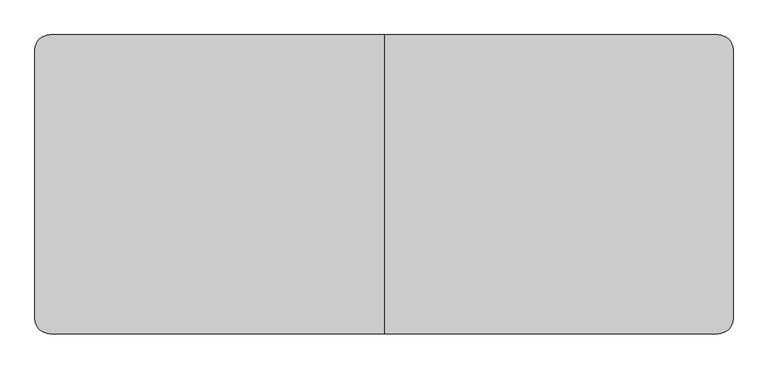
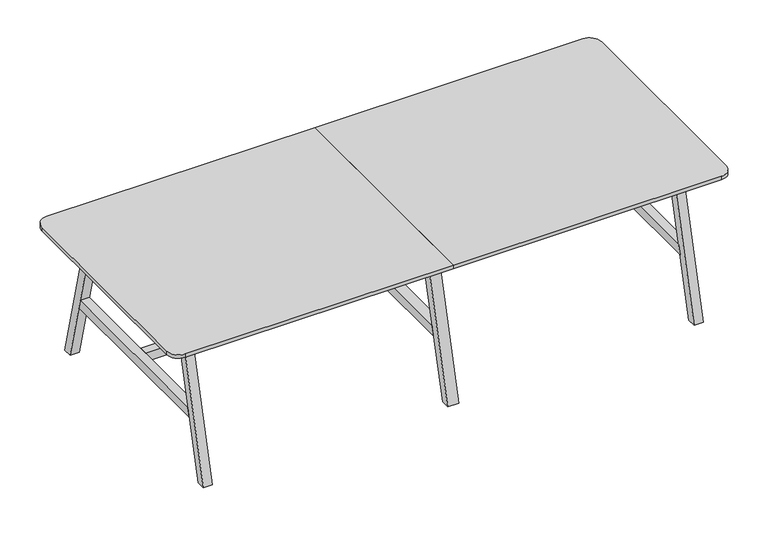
"""IFC4 building model written with IfcOpenShell, lengths in millimetres: furniture geometry, BDG_BossDesign_Tbls_AgentTables6Legs : AGE-DT-6L-2800-1200-3D."""

import ifcopenshell
import ifcopenshell.guid

model = None  # the IFC model being written
_history = None  # IfcOwnerHistory: only IFC2X3 demands one
_inside = {}  # id of a spatial element -> (the spatial element, [elements in it])
_under = {}  # id of a project, library or spatial element -> (it, [spatial elements below it])
_declared = {}  # id of a project -> (the project, [libraries it declares])
_typed = {}  # id of a type object -> (the type object, [elements of that type])
_made_of = {}  # id of a material, layer set ... -> (it, [elements and type objects made of it])


def new_model(schema):
    """Start an empty IFC model of exactly this schema.

    Asked for "IFC4X3", IfcOpenShell would pick the latest addendum, in which some entities
    have other attributes; the version numbers below select the first issue.
    IFC2X3 requires an IfcOwnerHistory on every rooted entity: one is made here for all.
    """
    global model, _history
    if schema == "IFC4X3":
        model = ifcopenshell.file(schema_version=(4, 3, 0, 0))
    else:
        model = ifcopenshell.file(schema=schema)
    _inside.clear()
    _under.clear()
    _declared.clear()
    _typed.clear()
    _made_of.clear()
    _history = None
    if model.schema == "IFC2X3":
        org = make("IfcOrganization", Name="unknown")
        user = make(
            "IfcPersonAndOrganization",
            ThePerson=make("IfcPerson", FamilyName="unknown"),
            TheOrganization=org,
        )
        app = make(
            "IfcApplication",
            ApplicationDeveloper=org,
            Version="unknown",
            ApplicationFullName="unknown",
            ApplicationIdentifier="unknown",
        )
        _history = make(
            "IfcOwnerHistory",
            OwningUser=user,
            OwningApplication=app,
            ChangeAction="ADDED",
            CreationDate=0,
        )
    return model


def make(cls, **values):
    """One entity of the class cls with the attributes given. An attribute that is None is left unset."""
    return model.create_entity(
        cls, **{name: value for name, value in values.items() if value is not None}
    )


def rooted(cls, **values):
    """An entity with a GlobalId (a new one), such as an element, a storey or a relation."""
    return make(cls, GlobalId=ifcopenshell.guid.new(), OwnerHistory=_history, **values)


def si_unit(unit_type, name, prefix=None):
    """IfcSIUnit, for example si_unit("LENGTHUNIT", "METRE", prefix="MILLI")."""
    return make("IfcSIUnit", UnitType=unit_type, Prefix=prefix, Name=name)


def assignment(units):
    """IfcUnitAssignment: the units of a project."""
    return None if units is None else make("IfcUnitAssignment", Units=units)


def point(xyz):
    """IfcCartesianPoint."""
    return None if xyz is None else make("IfcCartesianPoint", Coordinates=xyz)


def direction(xyz):
    """IfcDirection."""
    return None if xyz is None else make("IfcDirection", DirectionRatios=xyz)


def frame(location, z_axis=None, x_axis=None):
    """IfcAxis2Placement3D, a coordinate frame: its origin and axes. An axis left out is left unset."""
    return make(
        "IfcAxis2Placement3D",
        Location=point(location),
        Axis=direction(z_axis),
        RefDirection=direction(x_axis),
    )


def frame_2d(location, x_axis=None):
    """IfcAxis2Placement2D, a coordinate frame in the plane: its origin and x axis."""
    return make(
        "IfcAxis2Placement2D", Location=point(location), RefDirection=direction(x_axis)
    )


def origin():
    """The frame at (0, 0, 0) with its axes left unset."""
    return frame((0.0, 0.0, 0.0))


def place(relative_to, where):
    """IfcLocalPlacement: puts the frame where relative to a parent placement (None: the world)."""
    return make(
        "IfcLocalPlacement", PlacementRelTo=relative_to, RelativePlacement=where
    )


def context(
    kind, dimensions, precision=None, world=None, true_north=None, identifier=None
):
    """IfcGeometricRepresentationContext, for example the 3D "Model" context."""
    return make(
        "IfcGeometricRepresentationContext",
        ContextIdentifier=identifier,
        ContextType=kind,
        CoordinateSpaceDimension=dimensions,
        Precision=precision,
        WorldCoordinateSystem=world,
        TrueNorth=true_north,
    )


def project(units=None, contexts=None):
    """IfcProject with its units and contexts."""
    return rooted(
        "IfcProject",
        Name="project",
        RepresentationContexts=contexts,
        UnitsInContext=assignment(units),
    )


def spatial(cls, under=None, at=None, **own):
    """A site, building, storey or space (cls), placed at a placement, below another one or the project."""
    s = rooted(cls, ObjectPlacement=at, **own)
    if under is not None:
        _under.setdefault(under.id(), (under, []))[1].append(s)
    return s


def polyline(points):
    """IfcPolyline through the points."""
    return make("IfcPolyline", Points=[point(p) for p in points])


def circle_curve(where, radius):
    """IfcCircle in the frame where."""
    return make("IfcCircle", Position=where, Radius=radius)


def trimmed(basis, trim1, trim2, sense, master):
    """IfcTrimmedCurve: the piece of a basis curve between two trims."""
    return make(
        "IfcTrimmedCurve",
        BasisCurve=basis,
        Trim1=trim1,
        Trim2=trim2,
        SenseAgreement=sense,
        MasterRepresentation=master,
    )


def segment(curve, same_sense, transition):
    """IfcCompositeCurveSegment."""
    return make(
        "IfcCompositeCurveSegment",
        Transition=transition,
        SameSense=same_sense,
        ParentCurve=curve,
    )


def composite_curve(segments, self_intersect=None):
    """IfcCompositeCurve: segments joined end to end."""
    return make("IfcCompositeCurve", Segments=segments, SelfIntersect=self_intersect)


def outline(outer, holes=None, kind="AREA"):
    """IfcArbitraryClosedProfileDef: a profile drawn as a closed curve; with holes, ...WithVoids."""
    if holes is None:
        return make("IfcArbitraryClosedProfileDef", ProfileType=kind, OuterCurve=outer)
    return make(
        "IfcArbitraryProfileDefWithVoids",
        ProfileType=kind,
        OuterCurve=outer,
        InnerCurves=holes,
    )


def extrude(swept, where, along, depth):
    """IfcExtrudedAreaSolid: the profile swept, set in the frame where, extruded along a direction by depth."""
    return make(
        "IfcExtrudedAreaSolid",
        SweptArea=swept,
        Position=where,
        ExtrudedDirection=direction(along),
        Depth=depth,
    )


def shape(context_of_items, identifier, shape_type, items):
    """IfcShapeRepresentation: the items that make up one representation, for example the "Body"."""
    return make(
        "IfcShapeRepresentation",
        ContextOfItems=context_of_items,
        RepresentationIdentifier=identifier,
        RepresentationType=shape_type,
        Items=items,
    )


def source(mapping_origin, context_of_items, identifier, shape_type, items):
    """IfcRepresentationMap: a shape defined once, which mapped items show again and again."""
    return make(
        "IfcRepresentationMap",
        MappingOrigin=mapping_origin,
        MappedRepresentation=shape(context_of_items, identifier, shape_type, items),
    )


def transform(
    local_origin,
    x_axis=None,
    y_axis=None,
    z_axis=None,
    scale=None,
    scale2=None,
    scale3=None,
    uniform=True,
):
    """IfcCartesianTransformationOperator3D, or its non-uniform kind. x_axis, y_axis, z_axis: its Axis1, 2, 3."""
    if uniform:
        return make(
            "IfcCartesianTransformationOperator3D",
            Axis1=direction(x_axis),
            Axis2=direction(y_axis),
            LocalOrigin=point(local_origin),
            Scale=scale,
            Axis3=direction(z_axis),
        )
    return make(
        "IfcCartesianTransformationOperator3DnonUniform",
        Axis1=direction(x_axis),
        Axis2=direction(y_axis),
        LocalOrigin=point(local_origin),
        Scale=scale,
        Axis3=direction(z_axis),
        Scale2=scale2,
        Scale3=scale3,
    )


def mapped(mapping_source, mapping_target):
    """IfcMappedItem: shows the shape of a source again, moved by a transform."""
    return make(
        "IfcMappedItem", MappingSource=mapping_source, MappingTarget=mapping_target
    )


def made_of(thing, what):
    """Note that an element or type object is made of a material, layer set ...; save() writes the relation."""
    if what is not None:
        _made_of.setdefault(what.id(), (what, []))[1].append(thing)
    return thing


def element(
    cls,
    number,
    at=None,
    inside=None,
    cuts=None,
    type_object=None,
    material=None,
    context=None,
    identifier="Body",
    shape_type=None,
    held_by="IfcProductDefinitionShape",
    body=None,
    shapes=None,
    **own,
):
    """One element of the class cls, such as IfcWall. Its Tag is "e" and its number.

    at: its placement. inside: the storey or other place that contains it. cuts: it is an
    opening in that element (IfcRelVoidsElement). A single representation is given by context,
    identifier, shape_type and body (its items); several are given by shapes. held_by: the class
    of the entity that holds the representations. save() writes the other relations.
    """
    e = rooted(cls, Tag="e%d" % number, ObjectPlacement=at, **own)
    if body is not None:
        shapes = [shape(context, identifier, shape_type, body)]
    if shapes is not None:
        e.Representation = make(held_by, Representations=shapes)
    if inside is not None:
        _inside.setdefault(inside.id(), (inside, []))[1].append(e)
    if cuts is not None:
        rooted(
            "IfcRelVoidsElement", RelatingBuildingElement=cuts, RelatedOpeningElement=e
        )
    if type_object is not None:
        _typed.setdefault(type_object.id(), (type_object, []))[1].append(e)
    return made_of(e, material)


def aggregate(whole, parts):
    """IfcRelAggregates: a whole, such as a stair, and the parts it consists of."""
    return rooted("IfcRelAggregates", RelatingObject=whole, RelatedObjects=parts)


def save(model, path):
    """Write the relations noted so far, then the file.

    IfcRelAggregates (storeys below a building ...), IfcRelContainedInSpatialStructure (elements
    in a storey), IfcRelDefinesByType, IfcRelAssociatesMaterial and IfcRelDeclares: one each for
    every whole, place, type object, material and project.
    """
    for whole, parts in _under.values():
        aggregate(whole, parts)
    for where, things in _inside.values():
        rooted(
            "IfcRelContainedInSpatialStructure",
            RelatedElements=things,
            RelatingStructure=where,
        )
    for kind, things in _typed.values():
        rooted("IfcRelDefinesByType", RelatedObjects=things, RelatingType=kind)
    for what, things in _made_of.values():
        rooted("IfcRelAssociatesMaterial", RelatedObjects=things, RelatingMaterial=what)
    for by, libraries in _declared.values():
        rooted("IfcRelDeclares", RelatingContext=by, RelatedDefinitions=libraries)
    model.write(path)


def furniture_94fb7749(model_context):
    return source(origin(), model_context, "Body", "SweptSolid", [
        extrude(outline(polyline([(600.0, 0.0), (554.9999949, 0.0), (385.5, 660.0), (430.5000051, 660.0), (600.0, 0.0)])), frame((-27.5, 0.0, 0.0), z_axis=(1.0, 0.0, 0.0), x_axis=(0.0, 1.0, 0.0)), (0.0, 0.0, 1.0), 55.0),
        extrude(outline(polyline([(-600.0, 0.0), (-430.5000051, 660.0), (-385.5, 660.0), (-554.9999949, 0.0), (-600.0, 0.0)])), frame((-27.5, 0.0, 0.0), z_axis=(1.0, 0.0, 0.0), x_axis=(0.0, 1.0, 0.0)), (0.0, 0.0, 1.0), 55.0),
        extrude(outline(polyline([(477.9545427, 300.0), (-477.9545427, 300.0), (-466.3977249, 345.0), (466.3977249, 345.0), (477.9545427, 300.0)])), frame((-27.5, 0.0, 0.0), z_axis=(1.0, 0.0, 0.0), x_axis=(0.0, 1.0, 0.0)), (0.0, 0.0, 1.0), 55.0),
        extrude(outline(composite_curve([segment(polyline([(0.0, 600.0), (0.0, -600.0), (-1340.0, -600.0)]), True, "CONTINUOUS"), segment(trimmed(circle_curve(frame_2d((-1340.0, -540.0)), 60.0), [point((-1340.0, -600.0))], [point((-1400.0, -540.0))], False, "CARTESIAN"), True, "CONTINUOUS"), segment(polyline([(-1400.0, -540.0), (-1400.0, 540.0)]), True, "CONTINUOUS"), segment(trimmed(circle_curve(frame_2d((-1340.0, 540.0)), 60.0), [point((-1400.0, 540.0))], [point((-1340.0, 600.0))], False, "CARTESIAN"), True, "CONTINUOUS"), segment(polyline([(-1340.0, 600.0), (0.0, 600.0)]), True, "CONTINUOUS")], self_intersect=False)), frame((0.0, 0.0, 722.0), z_axis=(0.0, 0.0, 1.0), x_axis=(1.0, 0.0, 0.0)), (0.0, 0.0, 1.0), 18.0),
        extrude(outline(polyline([(-466.3977249, 345.0), (466.3977249, 345.0), (477.9545427, 300.0), (-477.9545427, 300.0), (-466.3977249, 345.0)])), frame((1205.0, 0.0, 0.0), z_axis=(1.0, 0.0, 0.0), x_axis=(0.0, 1.0, 0.0)), (0.0, 0.0, 1.0), 45.0),
        extrude(outline(polyline([(600.0, 0.0), (554.9999949, 0.0), (385.5, 660.0), (430.5000051, 660.0), (600.0, 0.0)])), frame((-1250.0, 0.0, 0.0), z_axis=(1.0, 0.0, 0.0), x_axis=(0.0, 1.0, 0.0)), (0.0, 0.0, 1.0), 45.0),
        extrude(outline(polyline([(-600.0, 0.0), (-430.5000051, 660.0), (-385.5, 660.0), (-554.9999949, 0.0), (-600.0, 0.0)])), frame((-1250.0, 0.0, 0.0), z_axis=(1.0, 0.0, 0.0), x_axis=(0.0, 1.0, 0.0)), (0.0, 0.0, 1.0), 45.0),
        extrude(outline(polyline([(-466.3977249, 345.0), (466.3977249, 345.0), (477.9545427, 300.0), (-477.9545427, 300.0), (-466.3977249, 345.0)])), frame((-1250.0, 0.0, 0.0), z_axis=(1.0, 0.0, 0.0), x_axis=(0.0, 1.0, 0.0)), (0.0, 0.0, 1.0), 45.0),
        extrude(outline(polyline([(-426.6006165, 634.973938), (-404.2770691, 722.0), (-379.5, 722.0), (-401.8235474, 634.973938), (-426.6006165, 634.973938)])), frame((-1205.0, 0.0, 0.0), z_axis=(1.0, 0.0, 0.0), x_axis=(0.0, 1.0, 0.0)), (0.0, 0.0, 1.0), 2410.0),
        extrude(outline(polyline([(426.6006165, 634.973938), (401.8235474, 634.973938), (379.5, 722.0), (404.2770691, 722.0), (426.6006165, 634.973938)])), frame((-1205.0, 0.0, 0.0), z_axis=(1.0, 0.0, 0.0), x_axis=(0.0, 1.0, 0.0)), (0.0, 0.0, 1.0), 2410.0),
        extrude(outline(polyline([(599.7999878, 0.0), (554.7999827, 0.0), (385.5, 660.0), (430.5000051, 660.0), (599.7999878, 0.0)])), frame((1205.0, 0.0, 0.0), z_axis=(1.0, 0.0, 0.0), x_axis=(0.0, 1.0, 0.0)), (0.0, 0.0, 1.0), 45.0),
        extrude(outline(polyline([(-599.7999878, 0.0), (-430.5000051, 660.0), (-385.5, 660.0), (-554.7999827, 0.0), (-599.7999878, 0.0)])), frame((1205.0, 0.0, 0.0), z_axis=(1.0, 0.0, 0.0), x_axis=(0.0, 1.0, 0.0)), (0.0, 0.0, 1.0), 45.0),
        extrude(outline(polyline([(-27.5, 22.5000305), (-27.5, -22.5000305), (-1205.0, -22.5000305), (-1205.0, 22.5000305), (-27.5, 22.5000305)])), frame((0.0, 0.0, 300.0), z_axis=(0.0, 0.0, 1.0), x_axis=(1.0, 0.0, 0.0)), (0.0, 0.0, 1.0), 45.0),
        extrude(outline(polyline([(27.5, -22.5000305), (27.5, 22.5000305), (1205.0, 22.5000305), (1205.0, -22.5000305), (27.5, -22.5000305)])), frame((0.0, 0.0, 300.0), z_axis=(0.0, 0.0, 1.0), x_axis=(1.0, 0.0, 0.0)), (0.0, 0.0, 1.0), 45.0),
        extrude(outline(composite_curve([segment(trimmed(circle_curve(frame_2d((1340.0, 540.0)), 60.0), [point((1340.0, 600.0))], [point((1400.0, 540.0))], False, "CARTESIAN"), True, "CONTINUOUS"), segment(polyline([(1400.0, 540.0), (1400.0, -540.0)]), True, "CONTINUOUS"), segment(trimmed(circle_curve(frame_2d((1340.0, -540.0)), 60.0), [point((1400.0, -540.0))], [point((1340.0, -600.0))], False, "CARTESIAN"), True, "CONTINUOUS"), segment(polyline([(1340.0, -600.0), (0.0, -600.0), (0.0, 600.0), (1340.0, 600.0)]), True, "CONTINUOUS")], self_intersect=False)), frame((0.0, 0.0, 722.0), z_axis=(0.0, 0.0, 1.0), x_axis=(1.0, 0.0, 0.0)), (0.0, 0.0, 1.0), 18.0),
    ])


if __name__ == "__main__":
    model = new_model("IFC4")
    model_context = context("Model", 3, world=origin())
    ifc_project = project(units=[si_unit("LENGTHUNIT", "METRE", prefix="MILLI")], contexts=[model_context])
    site = spatial("IfcSite", under=ifc_project)
    building = spatial("IfcBuilding", under=site)
    placement = place(None, origin())
    furniture_shape = furniture_94fb7749(model_context)
    element("IfcFurniture", 1, ObjectType="BDG_BossDesign_Tbls_AgentTables6Legs : AGE-DT-6L-2800-1200-3D", at=placement, inside=building, context=model_context, shape_type="MappedRepresentation", body=[
        mapped(furniture_shape, transform((0.0, 0.0, 0.0), x_axis=(1.0, 0.0, 0.0), y_axis=(0.0, 1.0, 0.0), z_axis=(0.0, 0.0, 1.0))),
    ])
    save(model, "model.ifc")
